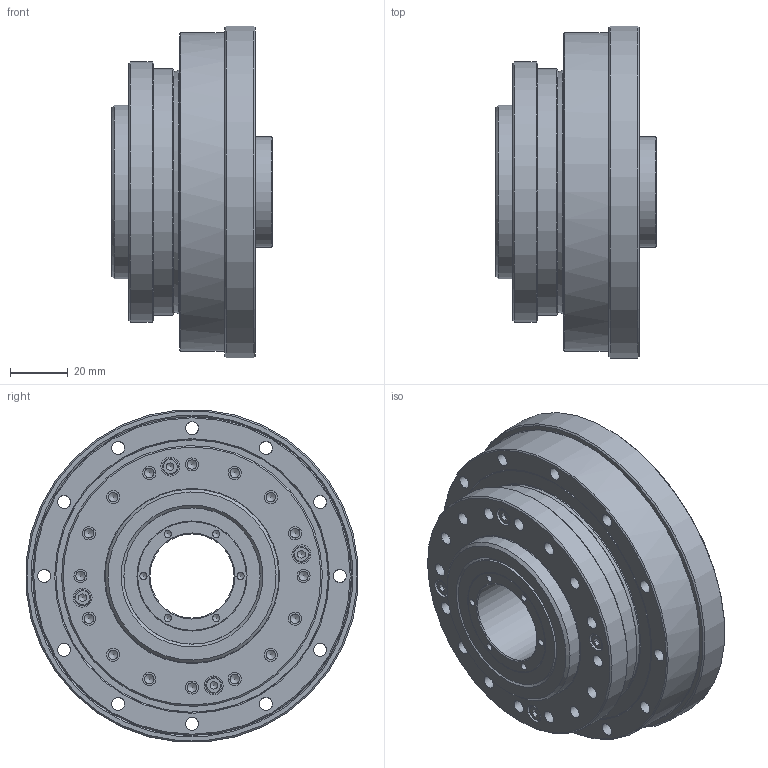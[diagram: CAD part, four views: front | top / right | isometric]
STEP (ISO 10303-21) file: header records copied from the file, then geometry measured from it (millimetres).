
FILE_DESCRIPTION(/* description */ (''),/* implementation_level */ '2;1');
FILE_NAME(/* name */ 'S:\TB00F\研發課二組\機密級\1.\X2\8A2D8A08\X0\\01-DT\DT圖面-y\2.組合圖\\X2\6A21578B\X0\\WTI-S-XX-AH\WTI-S-25-AH模型\WTI-S-25-XX-AH.stp',/* time_stamp */ '2018-10-29T14:45:12+08:00',/* author */ ('yin210'),/* organization */ (''),/* preprocessor_version */ 'ST-DEVELOPER v15.2',/* originating_system */ 'Autodesk Inventor 2014',/* authorisation */ '');
FILE_SCHEMA (('AUTOMOTIVE_DESIGN { 1 0 10303 214 3 1 1 }'));
Length unit declared in the file: centimetre
Products named in the file (1): WTI-S-25-XX-AH
Bounding box: 55.5 x 114.56 x 114.56 mm (x, y, z)
Volume: 336352.1 mm3; surface area: 53072.3 mm2
Topology: 1 solids, 1 shells, 310 faces, 712 edges, 468 vertices
Faces by surface type: plane 114, cylinder 102, cone 85, torus 5, bspline 4
Full cylindrical faces by diameter (mm): 2.459 x12, 3.242 x16, 4.5 x44, 5.5 x4, 5.7 x4, 6.5 x8, 29 x2, 29.5 x1, 38 x2, 47 x2, 60 x1, 84 x1, 85 x1, 90 x1, 94 x1, 110 x1, 115 x1
Entity records: 7228 total; most frequent: CARTESIAN_POINT 1311, DIRECTION 1258, ORIENTED_EDGE 844, EDGE_LOOP 592, AXIS2_PLACEMENT_3D 581, EDGE_CURVE 422, VERTEX_POINT 370, FACE_BOUND 326
